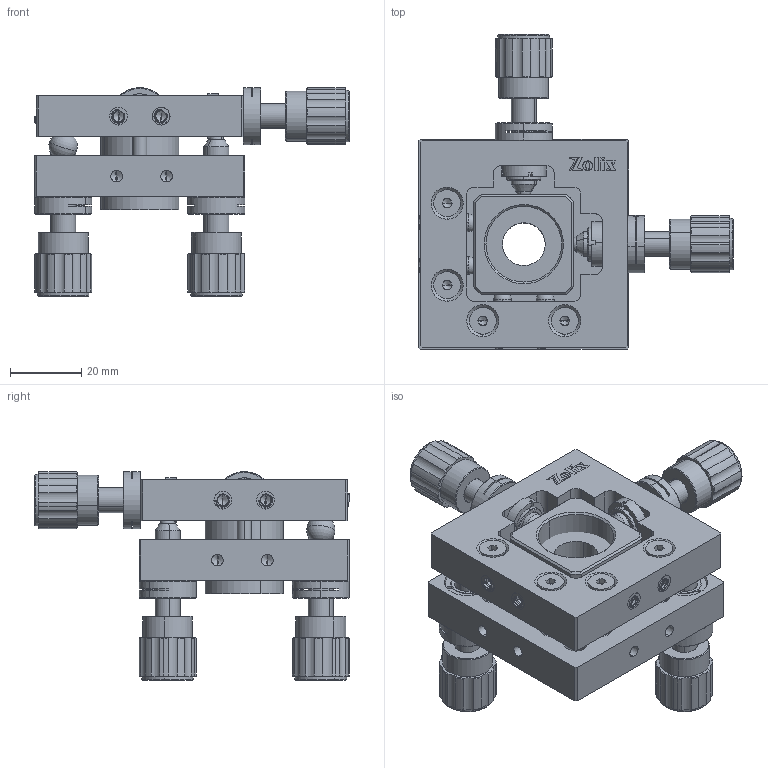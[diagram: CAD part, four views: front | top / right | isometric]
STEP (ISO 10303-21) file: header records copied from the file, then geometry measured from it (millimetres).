
FILE_DESCRIPTION (( 'STEP AP203' ), '1' );
FILE_NAME ('LM20-4-LD.STEP', '2022-07-18T07:17:15', ( '' ), ( '' ), 'SwSTEP 2.0', 'SolidWorks 2021', '' );
FILE_SCHEMA (( 'CONFIG_CONTROL_DESIGN' ));
Length unit declared in the file: millimetre
Products named in the file (1): LM20-4-LD
Bounding box: 88.36 x 88.36 x 58.55 mm (x, y, z)
Volume: 84191.9 mm3; surface area: 49248.2 mm2
Topology: 56 solids, 56 shells, 1437 faces, 3544 edges, 2189 vertices
Faces by surface type: plane 665, cylinder 384, cone 342, torus 20, sphere 18, bspline 8
Entity records: 52100 total; most frequent: CARTESIAN_POINT 17959, DIRECTION 7401, ORIENTED_EDGE 6866, EDGE_CURVE 3433, AXIS2_PLACEMENT_3D 2758, VERTEX_POINT 2174, VECTOR 1885, LINE 1885
